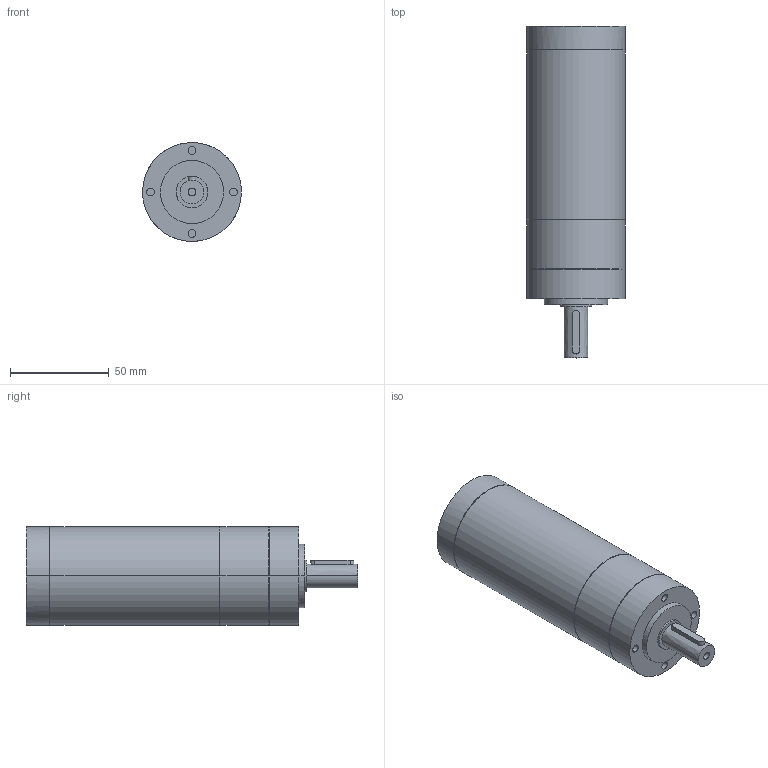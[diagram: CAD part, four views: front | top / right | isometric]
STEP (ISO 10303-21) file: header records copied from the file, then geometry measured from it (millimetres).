
FILE_DESCRIPTION(/* description */ (''),/* implementation_level */ '2;1');
FILE_NAME(/* name */ 'G2450R~1',/* time_stamp */ '2018-10-15T14:44:10+08:00',/* author */ (''),/* organization */ (''),/* preprocessor_version */ 'ST-DEVELOPER v15',/* originating_system */ '',/* authorisation */ '');
FILE_SCHEMA (('AUTOMOTIVE_DESIGN'));
Length unit declared in the file: millimetre
Products named in the file (1): Document
Bounding box: 50 x 168 x 49.97 mm (x, y, z)
Volume: 276666.9 mm3; surface area: 41058.4 mm2
Topology: 5 solids, 5 shells, 60 faces, 111 edges, 71 vertices
Faces by surface type: bspline 38, plane 22
Entity records: 2188 total; most frequent: CARTESIAN_POINT 1433, ORIENTED_EDGE 222, EDGE_CURVE 111, VERTEX_POINT 71, EDGE_LOOP 70, ADVANCED_FACE 60, FACE_OUTER_BOUND 60, B_SPLINE_CURVE_WITH_KNOTS 36
